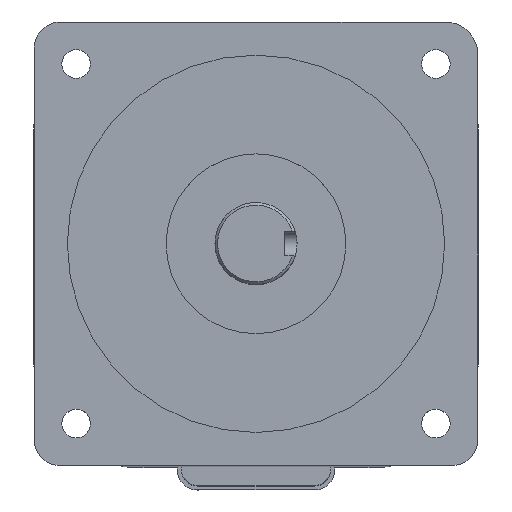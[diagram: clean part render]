
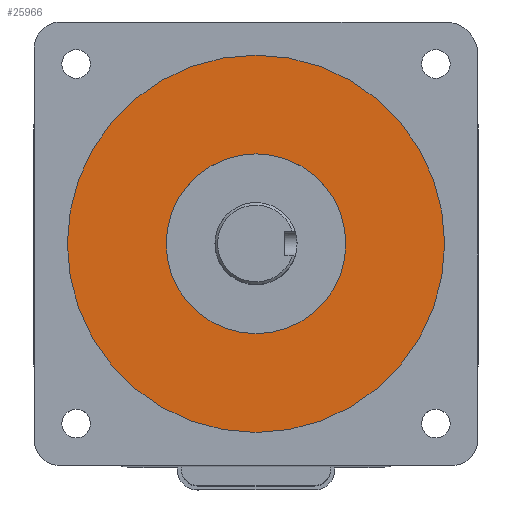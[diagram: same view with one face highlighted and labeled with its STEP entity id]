
A CAD part, top view. The second image highlights one B-rep face of the part: STEP entity #25966.
In plain terms, the highlighted planar face has unit normal (0, 0, 1).
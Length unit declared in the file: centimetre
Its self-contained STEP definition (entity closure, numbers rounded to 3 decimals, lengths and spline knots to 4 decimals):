
#9727=VERTEX_POINT('',#74461);
#9728=VERTEX_POINT('',#74464);
#13586=EDGE_CURVE('',#9727,#9727,#33051,.T.);
#13587=EDGE_CURVE('',#9728,#9728,#33052,.T.);
#21366=ORIENTED_EDGE('',*,*,#13587,.F.);
#21367=ORIENTED_EDGE('',*,*,#13586,.F.);
#22940=EDGE_LOOP('',(#21366));
#22941=EDGE_LOOP('',(#21367));
#24514=FACE_BOUND('',#22940,.T.);
#24515=FACE_BOUND('',#22941,.T.);
#25966=ADVANCED_FACE('',(#24514,#24515),#54172,.T.);
#33051=CIRCLE('',#50094,3.6513);
#33052=CIRCLE('',#50096,1.7399);
#50094=AXIS2_PLACEMENT_3D('',#74460,#79631,#79632);
#50096=AXIS2_PLACEMENT_3D('',#74463,#79635,#79636);
#50097=AXIS2_PLACEMENT_3D('',#74465,#79637,$);
#54172=PLANE('',#50097);
#74460=CARTESIAN_POINT('',(0.,0.,0.15));
#74461=CARTESIAN_POINT('',(3.6513,0.,0.15));
#74463=CARTESIAN_POINT('',(0.,0.,0.15));
#74464=CARTESIAN_POINT('',(1.7399,0.,0.15));
#74465=CARTESIAN_POINT('',(0.,0.,0.15));
#79631=DIRECTION('',(0.,0.,-1.));
#79632=DIRECTION('',(3.651,0.,0.));
#79635=DIRECTION('',(0.,0.,1.));
#79636=DIRECTION('',(1.74,0.,0.));
#79637=DIRECTION('',(0.,0.,1.));
